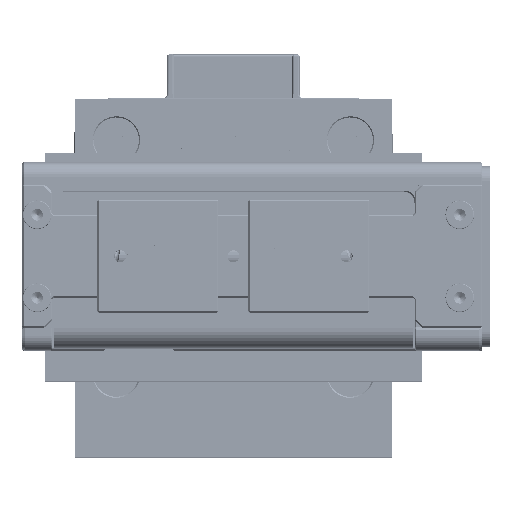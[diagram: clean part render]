
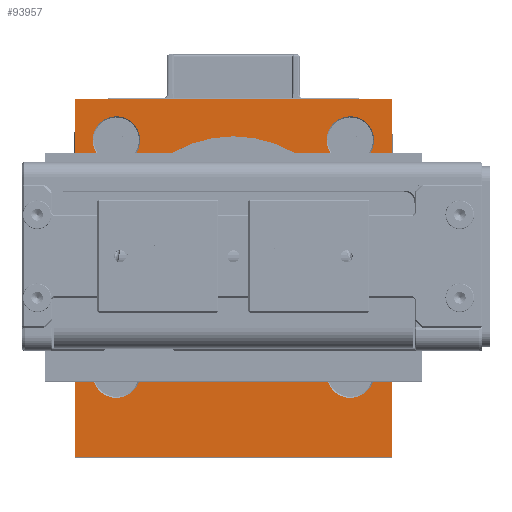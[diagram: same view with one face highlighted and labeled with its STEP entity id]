
A CAD part, top view. The second image highlights one B-rep face of the part: STEP entity #93957.
In plain terms, the highlighted planar face has unit normal (0, 0, 1).
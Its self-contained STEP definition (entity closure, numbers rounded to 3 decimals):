
#1161 = EDGE_LOOP ( 'NONE', ( #110560, #36766, #167100, #122184 ) ) ;
#1285 = CIRCLE ( 'NONE', #59030, 3.15 ) ;
#2393 = CARTESIAN_POINT ( 'NONE',  ( -42., 47.5, 0. ) ) ;
#2742 = VERTEX_POINT ( 'NONE', #8718 ) ;
#6869 = FACE_BOUND ( 'NONE', #9222, .T. ) ;
#7969 = FACE_BOUND ( 'NONE', #141906, .T. ) ;
#8718 = CARTESIAN_POINT ( 'NONE',  ( -39.65, 11., 0. ) ) ;
#9222 = EDGE_LOOP ( 'NONE', ( #184407, #200880 ) ) ;
#9667 = CARTESIAN_POINT ( 'NONE',  ( -42., 0., 0. ) ) ;
#10348 = CARTESIAN_POINT ( 'NONE',  ( -36.5, 11., 0. ) ) ;
#11012 = DIRECTION ( 'NONE',  ( 0., 1., 0. ) ) ;
#12784 = CIRCLE ( 'NONE', #160702, 16. ) ;
#14386 = VECTOR ( 'NONE', #209114, 1000. ) ;
#14389 = CIRCLE ( 'NONE', #122654, 3.15 ) ;
#15482 = LINE ( 'NONE', #49428, #167408 ) ;
#15959 = VECTOR ( 'NONE', #11012, 1000. ) ;
#21115 = EDGE_CURVE ( 'NONE', #109435, #185820, #153206, .T. ) ;
#21600 = FACE_BOUND ( 'NONE', #49892, .T. ) ;
#22459 = LINE ( 'NONE', #121965, #104159 ) ;
#22631 = CARTESIAN_POINT ( 'NONE',  ( -8.65, 11., 0. ) ) ;
#24655 = VERTEX_POINT ( 'NONE', #9667 ) ;
#25035 = DIRECTION ( 'NONE',  ( 0., 0., 1. ) ) ;
#25078 = CARTESIAN_POINT ( 'NONE',  ( -5.5, 11., 0. ) ) ;
#26048 = VERTEX_POINT ( 'NONE', #217778 ) ;
#28402 = DIRECTION ( 'NONE',  ( 0., 0., 1. ) ) ;
#29202 = EDGE_CURVE ( 'NONE', #24655, #204231, #46063, .T. ) ;
#29555 = AXIS2_PLACEMENT_3D ( 'NONE', #25078, #215965, #127948 ) ;
#31122 = ORIENTED_EDGE ( 'NONE', *, *, #51583, .F. ) ;
#31380 = CARTESIAN_POINT ( 'NONE',  ( -21., 26.5, 0. ) ) ;
#34325 = CIRCLE ( 'NONE', #157036, 3.15 ) ;
#36766 = ORIENTED_EDGE ( 'NONE', *, *, #82223, .F. ) ;
#37846 = CARTESIAN_POINT ( 'NONE',  ( -39.65, 42., 0. ) ) ;
#38344 = CARTESIAN_POINT ( 'NONE',  ( 0., 0., 0. ) ) ;
#38492 = CARTESIAN_POINT ( 'NONE',  ( -33.35, 11., 0. ) ) ;
#40939 = DIRECTION ( 'NONE',  ( -1., 0., 0. ) ) ;
#46063 = LINE ( 'NONE', #131914, #15959 ) ;
#48652 = DIRECTION ( 'NONE',  ( 0., 0., 1. ) ) ;
#49428 = CARTESIAN_POINT ( 'NONE',  ( -42., 0., 0. ) ) ;
#49892 = EDGE_LOOP ( 'NONE', ( #31122, #101624 ) ) ;
#50500 = DIRECTION ( 'NONE',  ( -1., 0., 0. ) ) ;
#51583 = EDGE_CURVE ( 'NONE', #2742, #56903, #168588, .T. ) ;
#56903 = VERTEX_POINT ( 'NONE', #38492 ) ;
#58275 = CARTESIAN_POINT ( 'NONE',  ( -36.5, 11., 0. ) ) ;
#58995 = EDGE_CURVE ( 'NONE', #56903, #2742, #1285, .T. ) ;
#59030 = AXIS2_PLACEMENT_3D ( 'NONE', #58275, #113562, #215225 ) ;
#61650 = ORIENTED_EDGE ( 'NONE', *, *, #159382, .F. ) ;
#65601 = EDGE_CURVE ( 'NONE', #200706, #26048, #22459, .T. ) ;
#67023 = VERTEX_POINT ( 'NONE', #73108 ) ;
#69285 = CARTESIAN_POINT ( 'NONE',  ( -42., 47.5, 0. ) ) ;
#69299 = CIRCLE ( 'NONE', #29555, 3.15 ) ;
#73079 = DIRECTION ( 'NONE',  ( 0., 0., 1. ) ) ;
#73108 = CARTESIAN_POINT ( 'NONE',  ( -37., 26.5, 0. ) ) ;
#73708 = AXIS2_PLACEMENT_3D ( 'NONE', #172875, #105158, #173979 ) ;
#73816 = CARTESIAN_POINT ( 'NONE',  ( -5.5, 42., 0. ) ) ;
#74198 = DIRECTION ( 'NONE',  ( -1., 0., 0. ) ) ;
#79338 = AXIS2_PLACEMENT_3D ( 'NONE', #222570, #48652, #84790 ) ;
#80295 = EDGE_CURVE ( 'NONE', #124571, #114537, #34325, .T. ) ;
#82223 = EDGE_CURVE ( 'NONE', #204231, #26048, #157144, .T. ) ;
#82739 = ORIENTED_EDGE ( 'NONE', *, *, #153903, .F. ) ;
#83265 = DIRECTION ( 'NONE',  ( 0., 0., 1. ) ) ;
#84483 = CARTESIAN_POINT ( 'NONE',  ( -33.35, 42., 0. ) ) ;
#84790 = DIRECTION ( 'NONE',  ( -1., 0., 0. ) ) ;
#91675 = FACE_OUTER_BOUND ( 'NONE', #1161, .T. ) ;
#92776 = DIRECTION ( 'NONE',  ( 1., 0., 0. ) ) ;
#93957 = ADVANCED_FACE ( 'NONE', ( #7969, #6869, #195540, #21600, #144680, #91675 ), #178595, .F. ) ;
#97631 = EDGE_CURVE ( 'NONE', #114537, #124571, #69299, .T. ) ;
#97992 = EDGE_LOOP ( 'NONE', ( #99117, #144412 ) ) ;
#99117 = ORIENTED_EDGE ( 'NONE', *, *, #97631, .F. ) ;
#101624 = ORIENTED_EDGE ( 'NONE', *, *, #58995, .F. ) ;
#102325 = DIRECTION ( 'NONE',  ( 0., 0., 1. ) ) ;
#104159 = VECTOR ( 'NONE', #176092, 1000. ) ;
#105158 = DIRECTION ( 'NONE',  ( 0., 0., 1. ) ) ;
#105927 = CIRCLE ( 'NONE', #130992, 16. ) ;
#108085 = AXIS2_PLACEMENT_3D ( 'NONE', #73816, #108881, #177691 ) ;
#108881 = DIRECTION ( 'NONE',  ( 0., 0., 1. ) ) ;
#109435 = VERTEX_POINT ( 'NONE', #84483 ) ;
#110560 = ORIENTED_EDGE ( 'NONE', *, *, #65601, .T. ) ;
#113562 = DIRECTION ( 'NONE',  ( 0., 0., 1. ) ) ;
#114537 = VERTEX_POINT ( 'NONE', #22631 ) ;
#115906 = CARTESIAN_POINT ( 'NONE',  ( -5.5, 11., 0. ) ) ;
#116509 = CARTESIAN_POINT ( 'NONE',  ( -5., 26.5, 0. ) ) ;
#121965 = CARTESIAN_POINT ( 'NONE',  ( 0., 47.5, 0. ) ) ;
#122184 = ORIENTED_EDGE ( 'NONE', *, *, #160598, .T. ) ;
#122654 = AXIS2_PLACEMENT_3D ( 'NONE', #143726, #25035, #40939 ) ;
#124325 = EDGE_CURVE ( 'NONE', #188747, #67023, #12784, .T. ) ;
#124571 = VERTEX_POINT ( 'NONE', #131685 ) ;
#127948 = DIRECTION ( 'NONE',  ( -1., 0., 0. ) ) ;
#130992 = AXIS2_PLACEMENT_3D ( 'NONE', #153291, #83265, #50500 ) ;
#131685 = CARTESIAN_POINT ( 'NONE',  ( -2.35, 11., 0. ) ) ;
#131914 = CARTESIAN_POINT ( 'NONE',  ( -42., 47.5, 0. ) ) ;
#133293 = CIRCLE ( 'NONE', #108085, 3.15 ) ;
#141906 = EDGE_LOOP ( 'NONE', ( #82739, #158656 ) ) ;
#143726 = CARTESIAN_POINT ( 'NONE',  ( -5.5, 42., 0. ) ) ;
#144412 = ORIENTED_EDGE ( 'NONE', *, *, #80295, .F. ) ;
#144680 = FACE_BOUND ( 'NONE', #161631, .T. ) ;
#147306 = AXIS2_PLACEMENT_3D ( 'NONE', #193327, #160545, #92776 ) ;
#153206 = CIRCLE ( 'NONE', #73708, 3.15 ) ;
#153291 = CARTESIAN_POINT ( 'NONE',  ( -21., 26.5, 0. ) ) ;
#153903 = EDGE_CURVE ( 'NONE', #182119, #191499, #133293, .T. ) ;
#157036 = AXIS2_PLACEMENT_3D ( 'NONE', #115906, #102325, #167814 ) ;
#157144 = LINE ( 'NONE', #2393, #14386 ) ;
#158656 = ORIENTED_EDGE ( 'NONE', *, *, #215541, .F. ) ;
#159382 = EDGE_CURVE ( 'NONE', #67023, #188747, #105927, .T. ) ;
#160545 = DIRECTION ( 'NONE',  ( 0., 0., -1. ) ) ;
#160598 = EDGE_CURVE ( 'NONE', #24655, #200706, #15482, .T. ) ;
#160702 = AXIS2_PLACEMENT_3D ( 'NONE', #31380, #73079, #74198 ) ;
#161631 = EDGE_LOOP ( 'NONE', ( #61650, #184663 ) ) ;
#164890 = AXIS2_PLACEMENT_3D ( 'NONE', #10348, #28402, #203520 ) ;
#167100 = ORIENTED_EDGE ( 'NONE', *, *, #29202, .F. ) ;
#167408 = VECTOR ( 'NONE', #170231, 1000. ) ;
#167540 = EDGE_CURVE ( 'NONE', #185820, #109435, #176763, .T. ) ;
#167814 = DIRECTION ( 'NONE',  ( -1., 0., 0. ) ) ;
#168588 = CIRCLE ( 'NONE', #164890, 3.15 ) ;
#170231 = DIRECTION ( 'NONE',  ( 1., 0., 0. ) ) ;
#172875 = CARTESIAN_POINT ( 'NONE',  ( -36.5, 42., 0. ) ) ;
#173199 = CARTESIAN_POINT ( 'NONE',  ( -8.65, 42., 0. ) ) ;
#173979 = DIRECTION ( 'NONE',  ( -1., 0., 0. ) ) ;
#176092 = DIRECTION ( 'NONE',  ( 0., 1., 0. ) ) ;
#176763 = CIRCLE ( 'NONE', #79338, 3.15 ) ;
#177691 = DIRECTION ( 'NONE',  ( -1., 0., 0. ) ) ;
#178595 = PLANE ( 'NONE',  #147306 ) ;
#179591 = CARTESIAN_POINT ( 'NONE',  ( -2.35, 42., 0. ) ) ;
#182119 = VERTEX_POINT ( 'NONE', #173199 ) ;
#184407 = ORIENTED_EDGE ( 'NONE', *, *, #167540, .F. ) ;
#184663 = ORIENTED_EDGE ( 'NONE', *, *, #124325, .F. ) ;
#185820 = VERTEX_POINT ( 'NONE', #37846 ) ;
#188747 = VERTEX_POINT ( 'NONE', #116509 ) ;
#191499 = VERTEX_POINT ( 'NONE', #179591 ) ;
#193327 = CARTESIAN_POINT ( 'NONE',  ( -42., 47.5, 0. ) ) ;
#195540 = FACE_BOUND ( 'NONE', #97992, .T. ) ;
#200706 = VERTEX_POINT ( 'NONE', #38344 ) ;
#200880 = ORIENTED_EDGE ( 'NONE', *, *, #21115, .F. ) ;
#203520 = DIRECTION ( 'NONE',  ( -1., 0., 0. ) ) ;
#204231 = VERTEX_POINT ( 'NONE', #69285 ) ;
#209114 = DIRECTION ( 'NONE',  ( 1., 0., 0. ) ) ;
#215225 = DIRECTION ( 'NONE',  ( -1., 0., 0. ) ) ;
#215541 = EDGE_CURVE ( 'NONE', #191499, #182119, #14389, .T. ) ;
#215965 = DIRECTION ( 'NONE',  ( 0., 0., 1. ) ) ;
#217778 = CARTESIAN_POINT ( 'NONE',  ( 0., 47.5, 0. ) ) ;
#222570 = CARTESIAN_POINT ( 'NONE',  ( -36.5, 42., 0. ) ) ;
